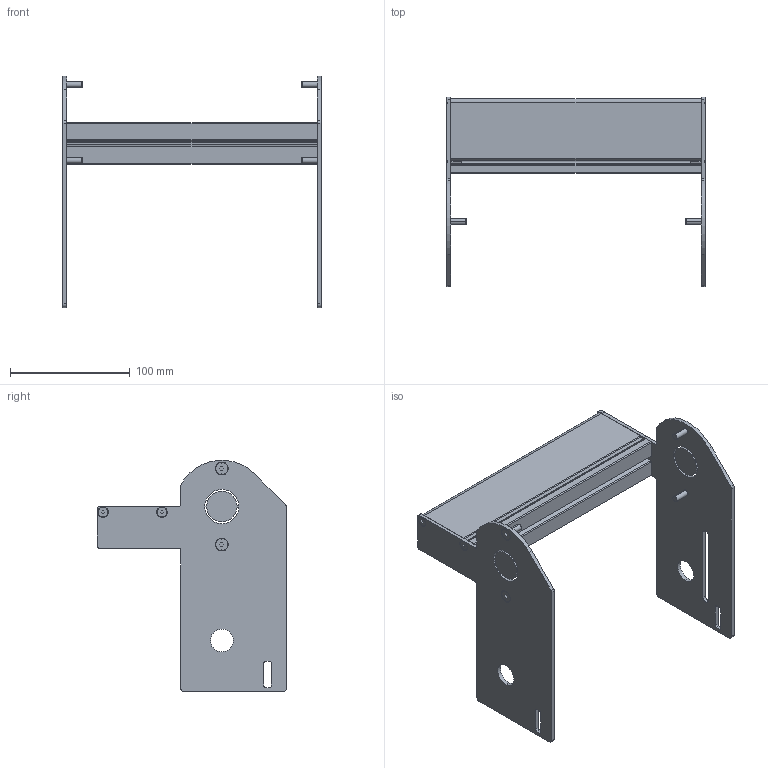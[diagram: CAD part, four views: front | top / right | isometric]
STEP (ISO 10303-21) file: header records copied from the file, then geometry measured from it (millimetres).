
FILE_DESCRIPTION((''),'2;1');
FILE_NAME('350712-08_ASM','2023-03-22T',('jenni.wallner'),(''),'PRO/ENGINEER BY PARAMETRIC TECHNOLOGY CORPORATION, 2012420','PRO/ENGINEER BY PARAMETRIC TECHNOLOGY CORPORATION, 2012420','');
FILE_SCHEMA(('CONFIG_CONTROL_DESIGN'));
Length unit declared in the file: inch
Products named in the file (6): 350669-08; 350667; 350668; 930412M; 930516M; 350712-08_ASM
Assembly tree (11 placements, depth 2):
  350712-08_ASM
    350669-08
    350667
    350668
    930412M  x4
    930516M  x4
Bounding box: 215.54 x 158.09 x 193.27 mm (x, y, z)
Volume: 278872.8 mm3; surface area: 187245.6 mm2
Topology: 11 solids, 11 shells, 336 faces, 878 edges, 572 vertices
Faces by surface type: plane 150, cylinder 138, cone 48
Entity records: 7843 total; most frequent: DIRECTION 1412, CARTESIAN_POINT 1329, ORIENTED_EDGE 1300, EDGE_CURVE 650, AXIS2_PLACEMENT_3D 511, VERTEX_POINT 428, VECTOR 390, LINE 390
